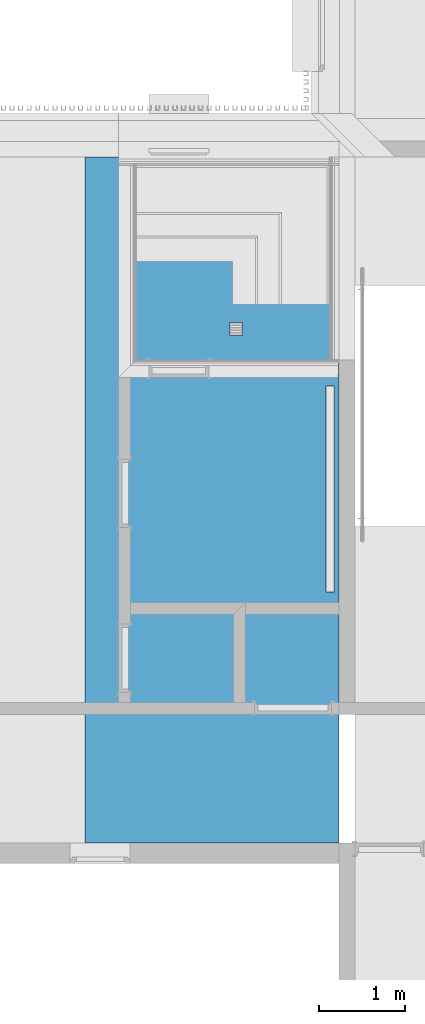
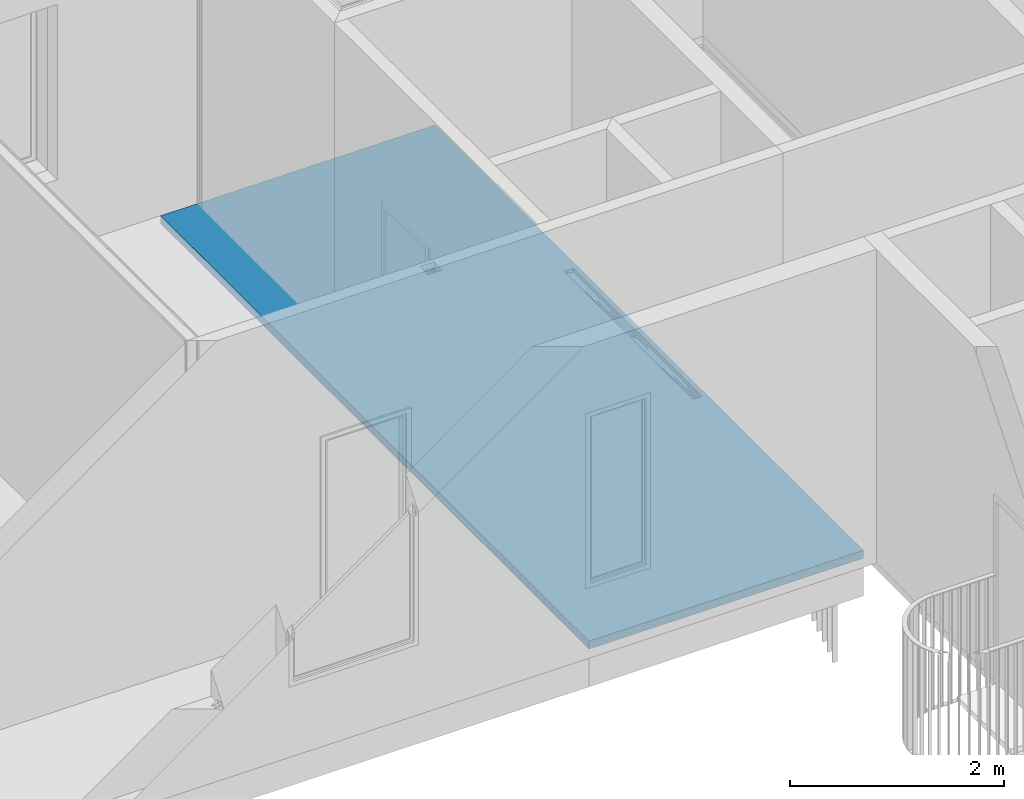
# One storey, part 68 of 100: 1 building element part, 1 element without a shape of its own.
"""IFC2X3 building model written with IfcOpenShell, lengths in millimetres."""

from ifc_helpers import new_model, entity, si_unit, converted_unit, derived_unit, money_unit, direction, frame, origin_with_axes, place, context, subcontext, project, spatial, polyline, outline, extrude, boolean, faceted_brep, material, type_object, element, aggregate, save


model = new_model("IFC2X3")

# Units and contexts
model_context = context("Model", 3, precision=0.01, world=origin_with_axes(), true_north=direction((0.0, 1.0)))
body_context = subcontext(model_context, "Body", "Model", "MODEL_VIEW")
ifc_project = project(units=[si_unit("LENGTHUNIT", "METRE", prefix="MILLI"), si_unit("AREAUNIT", "SQUARE_METRE"), si_unit("VOLUMEUNIT", "CUBIC_METRE"), converted_unit("PLANEANGLEUNIT", "DEGREE", entity("IfcPlaneAngleMeasure", 0.0174532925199), si_unit("PLANEANGLEUNIT", "RADIAN"), dimensions=[0, 0, 0, 0, 0, 0, 0]), si_unit("SOLIDANGLEUNIT", "STERADIAN"), money_unit("EUR"), converted_unit("TIMEUNIT", "Year", entity("IfcTimeMeasure", 31556926.0), si_unit("TIMEUNIT", "SECOND"), dimensions=[0, 0, 1, 0, 0, 0, 0]), si_unit("MASSUNIT", "GRAM", prefix="KILO"), si_unit("THERMODYNAMICTEMPERATUREUNIT", "DEGREE_CELSIUS"), si_unit("LUMINOUSINTENSITYUNIT", "LUMEN"), si_unit("ENERGYUNIT", "JOULE", prefix="MEGA"), derived_unit("THERMALCONDUCTANCEUNIT", [(si_unit("POWERUNIT", "WATT"), 1), (si_unit("LENGTHUNIT", "METRE"), -1), (si_unit("THERMODYNAMICTEMPERATUREUNIT", "KELVIN"), -1)]), derived_unit("SPECIFICHEATCAPACITYUNIT", [(si_unit("ENERGYUNIT", "JOULE"), 1), (si_unit("MASSUNIT", "GRAM", prefix="KILO"), -1), (si_unit("THERMODYNAMICTEMPERATUREUNIT", "KELVIN"), -1)]), derived_unit("MASSDENSITYUNIT", [(si_unit("MASSUNIT", "GRAM", prefix="KILO"), 1), (si_unit("VOLUMEUNIT", "CUBIC_METRE"), -1)])], contexts=[model_context])

# Site, building, storey
site_placement = place(None, origin_with_axes())
site = spatial("IfcSite", under=ifc_project, at=site_placement, Name="Politse- ja Piirivalveameti ning Päästeameti ühishoone", CompositionType="ELEMENT")
building_placement = place(site_placement, origin_with_axes())
building = spatial("IfcBuilding", under=site, at=building_placement, Name="Politse- ja Piirivalveameti ning Päästeameti ühishoone", CompositionType="ELEMENT")
storey_placement = place(building_placement, frame((0.0, 0.0, 3800.0), z_axis=(0.0, 0.0, 1.0), x_axis=(1.0, 0.0, 0.0)))
storey = spatial("IfcBuildingStorey", under=building, at=storey_placement, Name="Teine korrus", CompositionType="ELEMENT", Elevation=3800.0)

# Slab, building element part
slab_type = type_object("IfcSlabType", Name="VL-05_Vahelagi   400 paneel 520", PredefinedType="NOTDEFINED")
slab_placement = place(storey_placement, frame((57010.0279565, 20999.9410462, 0.0), z_axis=(0.0, 0.0, 1.0), x_axis=(1.0, 0.0, 0.0)))
slab = element("IfcSlab", 1, at=slab_placement, inside=storey, type_object=slab_type, Name="VL-05", PredefinedType="NOTDEFINED")
ifc_material = material(Name="VKR-01_Betoon")
building_element_part_placement = place(slab_placement, origin_with_axes())
building_element_part = element("IfcBuildingElementPart", 2, at=building_element_part_placement, material=ifc_material, Name="VKR-01_Betoon", context=body_context, shape_type="CSG", body=[
    boolean("DIFFERENCE", boolean("DIFFERENCE", boolean("DIFFERENCE", extrude(outline(polyline([(0.0, 0.0), (0.00405077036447, -7999.9211851), (2960.52395533, -7999.9211851), (2960.52395533, -4.69243666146e-05), (0.0, 0.0)])), frame((0.0, 0.0, -90.0), z_axis=(0.0, 0.0, 1.0), x_axis=(1.0, 0.0, 0.0)), (0.0, 0.0, 1.0), 90.0), faceted_brep([(1687.3840015, -2080.03274076, -90.0), (1837.3840015, -2080.03274076, -90.0), (1837.3840015, -1930.03274076, -90.0), (1687.3840015, -1930.03274076, -90.0), (1806.8840015, -1960.53274076, -90.0), (1806.8840015, -1935.03274076, -90.0), (1832.3840015, -1935.03274076, -90.0), (1832.3840015, -1960.53274076, -90.0), (1806.8840015, -1989.53274076, -90.0), (1806.8840015, -1962.53274076, -90.0), (1832.3840015, -1962.53274076, -90.0), (1832.3840015, -1989.53274076, -90.0), (1806.8840015, -2018.53274076, -90.0), (1806.8840015, -1991.53274076, -90.0), (1832.3840015, -1991.53274076, -90.0), (1832.3840015, -2018.53274076, -90.0), (1806.8840015, -2047.53274076, -90.0), (1806.8840015, -2020.53274076, -90.0), (1832.3840015, -2020.53274076, -90.0), (1832.3840015, -2047.53274076, -90.0), (1777.8840015, -1960.53274076, -90.0), (1777.8840015, -1935.03274076, -90.0), (1804.8840015, -1935.03274076, -90.0), (1804.8840015, -1960.53274076, -90.0), (1777.8840015, -1989.53274076, -90.0), (1777.8840015, -1962.53274076, -90.0), (1804.8840015, -1962.53274076, -90.0), (1804.8840015, -1989.53274076, -90.0), (1777.8840015, -2018.53274076, -90.0), (1777.8840015, -1991.53274076, -90.0), (1804.8840015, -1991.53274076, -90.0), (1804.8840015, -2018.53274076, -90.0), (1777.8840015, -2047.53274076, -90.0), (1777.8840015, -2020.53274076, -90.0), (1804.8840015, -2020.53274076, -90.0), (1804.8840015, -2047.53274076, -90.0), (1748.8840015, -1960.53274076, -90.0), (1748.8840012, -1935.03274076, -90.0), (1775.8840015, -1935.03274076, -90.0), (1775.8840015, -1960.53274076, -90.0), (1748.8840015, -1989.53274076, -90.0), (1748.8840015, -1962.53274076, -90.0), (1775.8840015, -1962.53274076, -90.0), (1775.8840015, -1989.53274076, -90.0), (1748.8840015, -2018.53274076, -90.0), (1748.8840015, -1991.53274076, -90.0), (1775.8840015, -1991.53274076, -90.0), (1775.8840015, -2018.53274076, -90.0), (1748.8840015, -2047.53274076, -90.0), (1748.8840015, -2020.53274076, -90.0), (1775.8840015, -2020.53274076, -90.0), (1775.8840015, -2047.53274076, -90.0), (1719.8840015, -1960.53274076, -90.0), (1719.8840012, -1935.03274076, -90.0), (1746.8840015, -1935.03274076, -90.0), (1746.8840015, -1960.53274076, -90.0), (1719.8840015, -1989.53274076, -90.0), (1719.8840015, -1962.53274076, -90.0), (1746.8840015, -1962.53274076, -90.0), (1746.8840015, -1989.53274076, -90.0), (1719.8840015, -2018.53274076, -90.0), (1719.8840015, -1991.53274076, -90.0), (1746.8840015, -1991.53274076, -90.0), (1746.8840015, -2018.53274076, -90.0), (1719.8840015, -2047.53274076, -90.0), (1719.8840015, -2020.53274076, -90.0), (1746.8840015, -2020.53274076, -90.0), (1746.8840015, -2047.53274076, -90.0), (1692.3840015, -1960.53274076, -90.0), (1692.3840015, -1935.03274076, -90.0), (1717.8840015, -1935.03274076, -90.0), (1717.8840015, -1960.53274076, -90.0), (1692.3840015, -1989.53274076, -90.0), (1692.3840015, -1962.53274076, -90.0), (1717.8840015, -1962.53274076, -90.0), (1717.8840015, -1989.53274076, -90.0), (1692.3840015, -2018.53274076, -90.0), (1692.3840015, -1991.53274076, -90.0), (1717.8840015, -1991.53274076, -90.0), (1717.8840015, -2018.53274076, -90.0), (1692.3840015, -2047.53274076, -90.0), (1692.3840015, -2020.53274076, -90.0), (1717.8840015, -2020.53274076, -90.0), (1717.8840015, -2047.53274076, -90.0), (1692.3840015, -2075.03274076, -90.0), (1692.3840015, -2049.53274076, -90.0), (1717.8840015, -2049.53274076, -90.0), (1717.8840015, -2075.03274076, -90.0), (1719.8840015, -2075.03274076, -90.0), (1719.8840015, -2049.53274076, -90.0), (1746.8840015, -2049.53274076, -90.0), (1746.8840015, -2075.03274076, -90.0), (1748.8840015, -2075.03274076, -90.0), (1748.8840015, -2049.53274076, -90.0), (1775.8840015, -2049.53274076, -90.0), (1775.8840015, -2075.03274076, -90.0), (1777.8840015, -2075.03274076, -90.0), (1777.8840015, -2049.53274076, -90.0), (1804.8840015, -2049.53274076, -90.0), (1804.8840015, -2075.03274076, -90.0), (1806.8840015, -2075.03274076, -90.0), (1806.8840015, -2049.53274076, -90.0), (1832.3840015, -2049.53274076, -90.0), (1832.3840015, -2075.03274076, -90.0), (1687.3840015, -2080.03274076, -100.0), (1837.3840015, -2080.03274076, -100.0), (1837.3840015, -1930.03274076, -100.0), (1687.3840015, -1930.03274076, -100.0), (1806.8840015, -1960.53274076, -100.0), (1806.8840015, -1935.03274076, -100.0), (1832.3840015, -1935.03274076, -100.0), (1832.3840015, -1960.53274076, -100.0), (1806.8840015, -1989.53274076, -100.0), (1806.8840015, -1962.53274076, -100.0), (1832.3840015, -1962.53274076, -100.0), (1832.3840015, -1989.53274076, -100.0), (1806.8840015, -2018.53274076, -100.0), (1806.8840015, -1991.53274076, -100.0), (1832.3840015, -1991.53274076, -100.0), (1832.3840015, -2018.53274076, -100.0), (1806.8840015, -2047.53274076, -100.0), (1806.8840015, -2020.53274076, -100.0), (1832.3840015, -2020.53274076, -100.0), (1832.3840015, -2047.53274076, -100.0), (1777.8840015, -1960.53274076, -100.0), (1777.8840015, -1935.03274076, -100.0), (1804.8840015, -1935.03274076, -100.0), (1804.8840015, -1960.53274076, -100.0), (1777.8840015, -1989.53274076, -100.0), (1777.8840015, -1962.53274076, -100.0), (1804.8840015, -1962.53274076, -100.0), (1804.8840015, -1989.53274076, -100.0), (1777.8840015, -2018.53274076, -100.0), (1777.8840015, -1991.53274076, -100.0), (1804.8840015, -1991.53274076, -100.0), (1804.8840015, -2018.53274076, -100.0), (1777.8840015, -2047.53274076, -100.0), (1777.8840015, -2020.53274076, -100.0), (1804.8840015, -2020.53274076, -100.0), (1804.8840015, -2047.53274076, -100.0), (1748.8840015, -1960.53274076, -100.0), (1748.8840012, -1935.03274076, -100.0), (1775.8840015, -1935.03274076, -100.0), (1775.8840015, -1960.53274076, -100.0), (1748.8840015, -1989.53274076, -100.0), (1748.8840015, -1962.53274076, -100.0), (1775.8840015, -1962.53274076, -100.0), (1775.8840015, -1989.53274076, -100.0), (1748.8840015, -2018.53274076, -100.0), (1748.8840015, -1991.53274076, -100.0), (1775.8840015, -1991.53274076, -100.0), (1775.8840015, -2018.53274076, -100.0), (1748.8840015, -2047.53274076, -100.0), (1748.8840015, -2020.53274076, -100.0), (1775.8840015, -2020.53274076, -100.0), (1775.8840015, -2047.53274076, -100.0), (1719.8840015, -1960.53274076, -100.0), (1719.8840012, -1935.03274076, -100.0), (1746.8840015, -1935.03274076, -100.0), (1746.8840015, -1960.53274076, -100.0), (1719.8840015, -1989.53274076, -100.0), (1719.8840015, -1962.53274076, -100.0), (1746.8840015, -1962.53274076, -100.0), (1746.8840015, -1989.53274076, -100.0), (1719.8840015, -2018.53274076, -100.0), (1719.8840015, -1991.53274076, -100.0), (1746.8840015, -1991.53274076, -100.0), (1746.8840015, -2018.53274076, -100.0), (1719.8840015, -2047.53274076, -100.0), (1719.8840015, -2020.53274076, -100.0), (1746.8840015, -2020.53274076, -100.0), (1746.8840015, -2047.53274076, -100.0), (1692.3840015, -1960.53274076, -100.0), (1692.3840015, -1935.03274076, -100.0), (1717.8840015, -1935.03274076, -100.0), (1717.8840015, -1960.53274076, -100.0), (1692.3840015, -1989.53274076, -100.0), (1692.3840015, -1962.53274076, -100.0), (1717.8840015, -1962.53274076, -100.0), (1717.8840015, -1989.53274076, -100.0), (1692.3840015, -2018.53274076, -100.0), (1692.3840015, -1991.53274076, -100.0), (1717.8840015, -1991.53274076, -100.0), (1717.8840015, -2018.53274076, -100.0), (1692.3840015, -2047.53274076, -100.0), (1692.3840015, -2020.53274076, -100.0), (1717.8840015, -2020.53274076, -100.0), (1717.8840015, -2047.53274076, -100.0), (1692.3840015, -2075.03274076, -100.0), (1692.3840015, -2049.53274076, -100.0), (1717.8840015, -2049.53274076, -100.0), (1717.8840015, -2075.03274076, -100.0), (1719.8840015, -2075.03274076, -100.0), (1719.8840015, -2049.53274076, -100.0), (1746.8840015, -2049.53274076, -100.0), (1746.8840015, -2075.03274076, -100.0), (1748.8840015, -2075.03274076, -100.0), (1748.8840015, -2049.53274076, -100.0), (1775.8840015, -2049.53274076, -100.0), (1775.8840015, -2075.03274076, -100.0), (1777.8840015, -2075.03274076, -100.0), (1777.8840015, -2049.53274076, -100.0), (1804.8840015, -2049.53274076, -100.0), (1804.8840015, -2075.03274076, -100.0), (1806.8840015, -2075.03274076, -100.0), (1806.8840015, -2049.53274076, -100.0), (1832.3840015, -2049.53274076, -100.0), (1832.3840015, -2075.03274076, -100.0)], [[[0, 1, 2, 3], [4, 5, 6, 7], [8, 9, 10, 11], [12, 13, 14, 15], [16, 17, 18, 19], [20, 21, 22, 23], [24, 25, 26, 27], [28, 29, 30, 31], [32, 33, 34, 35], [36, 37, 38, 39], [40, 41, 42, 43], [44, 45, 46, 47], [48, 49, 50, 51], [52, 53, 54, 55], [56, 57, 58, 59], [60, 61, 62, 63], [64, 65, 66, 67], [68, 69, 70, 71], [72, 73, 74, 75], [76, 77, 78, 79], [80, 81, 82, 83], [84, 85, 86, 87], [88, 89, 90, 91], [92, 93, 94, 95], [96, 97, 98, 99], [100, 101, 102, 103]], [[1, 0, 104, 105]], [[2, 1, 105, 106]], [[3, 2, 106, 107]], [[0, 3, 107, 104]], [[5, 4, 108, 109]], [[6, 5, 109, 110]], [[7, 6, 110, 111]], [[4, 7, 111, 108]], [[9, 8, 112, 113]], [[10, 9, 113, 114]], [[11, 10, 114, 115]], [[8, 11, 115, 112]], [[13, 12, 116, 117]], [[14, 13, 117, 118]], [[15, 14, 118, 119]], [[12, 15, 119, 116]], [[17, 16, 120, 121]], [[18, 17, 121, 122]], [[19, 18, 122, 123]], [[16, 19, 123, 120]], [[21, 20, 124, 125]], [[22, 21, 125, 126]], [[23, 22, 126, 127]], [[20, 23, 127, 124]], [[25, 24, 128, 129]], [[26, 25, 129, 130]], [[27, 26, 130, 131]], [[24, 27, 131, 128]], [[29, 28, 132, 133]], [[30, 29, 133, 134]], [[31, 30, 134, 135]], [[28, 31, 135, 132]], [[33, 32, 136, 137]], [[34, 33, 137, 138]], [[35, 34, 138, 139]], [[32, 35, 139, 136]], [[37, 36, 140, 141]], [[38, 37, 141, 142]], [[39, 38, 142, 143]], [[36, 39, 143, 140]], [[41, 40, 144, 145]], [[42, 41, 145, 146]], [[43, 42, 146, 147]], [[40, 43, 147, 144]], [[45, 44, 148, 149]], [[46, 45, 149, 150]], [[47, 46, 150, 151]], [[44, 47, 151, 148]], [[49, 48, 152, 153]], [[50, 49, 153, 154]], [[51, 50, 154, 155]], [[48, 51, 155, 152]], [[53, 52, 156, 157]], [[54, 53, 157, 158]], [[55, 54, 158, 159]], [[52, 55, 159, 156]], [[57, 56, 160, 161]], [[58, 57, 161, 162]], [[59, 58, 162, 163]], [[56, 59, 163, 160]], [[61, 60, 164, 165]], [[62, 61, 165, 166]], [[63, 62, 166, 167]], [[60, 63, 167, 164]], [[65, 64, 168, 169]], [[66, 65, 169, 170]], [[67, 66, 170, 171]], [[64, 67, 171, 168]], [[69, 68, 172, 173]], [[70, 69, 173, 174]], [[71, 70, 174, 175]], [[68, 71, 175, 172]], [[73, 72, 176, 177]], [[74, 73, 177, 178]], [[75, 74, 178, 179]], [[72, 75, 179, 176]], [[77, 76, 180, 181]], [[78, 77, 181, 182]], [[79, 78, 182, 183]], [[76, 79, 183, 180]], [[81, 80, 184, 185]], [[82, 81, 185, 186]], [[83, 82, 186, 187]], [[80, 83, 187, 184]], [[85, 84, 188, 189]], [[86, 85, 189, 190]], [[87, 86, 190, 191]], [[84, 87, 191, 188]], [[89, 88, 192, 193]], [[90, 89, 193, 194]], [[91, 90, 194, 195]], [[88, 91, 195, 192]], [[93, 92, 196, 197]], [[94, 93, 197, 198]], [[95, 94, 198, 199]], [[92, 95, 199, 196]], [[97, 96, 200, 201]], [[98, 97, 201, 202]], [[99, 98, 202, 203]], [[96, 99, 203, 200]], [[101, 100, 204, 205]], [[102, 101, 205, 206]], [[103, 102, 206, 207]], [[100, 103, 207, 204]], [[107, 173, 172, 177, 176, 181, 180, 185, 184, 189, 188, 191, 192, 195, 196, 199, 200, 203, 204, 207, 206, 123, 122, 119, 118, 115, 114, 111, 110, 106, 105, 104]], [[173, 107, 106, 110, 109, 108, 113, 112, 117, 116, 121, 120, 205, 204, 203, 202, 139, 138, 135, 134, 131, 130, 127, 126, 125, 124, 129, 128, 133, 132, 137, 136, 201, 200, 199, 198, 155, 154, 151, 150, 147, 146, 143, 142, 141, 140, 145, 144, 149, 148, 153, 152, 197, 196, 195, 194, 171, 170, 167, 166, 163, 162, 159, 158, 157, 156, 161, 160, 165, 164, 169, 168, 193, 192, 191, 190, 187, 186, 183, 182, 179, 178, 175, 174]], [[114, 113, 108, 111]], [[117, 112, 115, 118]], [[122, 121, 116, 119]], [[206, 205, 120, 123]], [[130, 129, 124, 127]], [[133, 128, 131, 134]], [[138, 137, 132, 135]], [[201, 136, 139, 202]], [[145, 140, 143, 146]], [[150, 149, 144, 147]], [[154, 153, 148, 151]], [[197, 152, 155, 198]], [[159, 162, 161, 156]], [[166, 165, 160, 163]], [[170, 169, 164, 167]], [[171, 194, 193, 168]], [[175, 178, 177, 172]], [[179, 182, 181, 176]], [[183, 186, 185, 180]], [[187, 190, 189, 184]]])), faceted_brep([(1687.3840015, -2080.03274076, -90.0), (1687.3840015, -1930.03274076, -90.0), (1837.3840015, -1930.03274076, -90.0), (1837.3840015, -2080.03274076, -90.0), (1806.8840015, -1960.53274076, -90.0), (1832.3840015, -1960.53274076, -90.0), (1832.3840015, -1935.03274076, -90.0), (1806.8840015, -1935.03274076, -90.0), (1806.8840015, -1989.53274076, -90.0), (1832.3840015, -1989.53274076, -90.0), (1832.3840015, -1962.53274076, -90.0), (1806.8840015, -1962.53274076, -90.0), (1806.8840015, -2018.53274076, -90.0), (1832.3840015, -2018.53274076, -90.0), (1832.3840015, -1991.53274076, -90.0), (1806.8840015, -1991.53274076, -90.0), (1806.8840015, -2047.53274076, -90.0), (1832.3840015, -2047.53274076, -90.0), (1832.3840015, -2020.53274076, -90.0), (1806.8840015, -2020.53274076, -90.0), (1777.8840015, -1960.53274076, -90.0), (1804.8840015, -1960.53274076, -90.0), (1804.8840015, -1935.03274076, -90.0), (1777.8840015, -1935.03274076, -90.0), (1777.8840015, -1989.53274076, -90.0), (1804.8840015, -1989.53274076, -90.0), (1804.8840015, -1962.53274076, -90.0), (1777.8840015, -1962.53274076, -90.0), (1777.8840015, -2018.53274076, -90.0), (1804.8840015, -2018.53274076, -90.0), (1804.8840015, -1991.53274076, -90.0), (1777.8840015, -1991.53274076, -90.0), (1777.8840015, -2047.53274076, -90.0), (1804.8840015, -2047.53274076, -90.0), (1804.8840015, -2020.53274076, -90.0), (1777.8840015, -2020.53274076, -90.0), (1748.8840015, -1960.53274076, -90.0), (1775.8840015, -1960.53274076, -90.0), (1775.8840015, -1935.03274076, -90.0), (1748.8840012, -1935.03274076, -90.0), (1748.8840015, -1989.53274076, -90.0), (1775.8840015, -1989.53274076, -90.0), (1775.8840015, -1962.53274076, -90.0), (1748.8840015, -1962.53274076, -90.0), (1748.8840015, -2018.53274076, -90.0), (1775.8840015, -2018.53274076, -90.0), (1775.8840015, -1991.53274076, -90.0), (1748.8840015, -1991.53274076, -90.0), (1748.8840015, -2047.53274076, -90.0), (1775.8840015, -2047.53274076, -90.0), (1775.8840015, -2020.53274076, -90.0), (1748.8840015, -2020.53274076, -90.0), (1719.8840015, -1960.53274076, -90.0), (1746.8840015, -1960.53274076, -90.0), (1746.8840015, -1935.03274076, -90.0), (1719.8840012, -1935.03274076, -90.0), (1719.8840015, -1989.53274076, -90.0), (1746.8840015, -1989.53274076, -90.0), (1746.8840015, -1962.53274076, -90.0), (1719.8840015, -1962.53274076, -90.0), (1719.8840015, -2018.53274076, -90.0), (1746.8840015, -2018.53274076, -90.0), (1746.8840015, -1991.53274076, -90.0), (1719.8840015, -1991.53274076, -90.0), (1719.8840015, -2047.53274076, -90.0), (1746.8840015, -2047.53274076, -90.0), (1746.8840015, -2020.53274076, -90.0), (1719.8840015, -2020.53274076, -90.0), (1692.3840015, -1960.53274076, -90.0), (1717.8840015, -1960.53274076, -90.0), (1717.8840015, -1935.03274076, -90.0), (1692.3840015, -1935.03274076, -90.0), (1692.3840015, -1989.53274076, -90.0), (1717.8840015, -1989.53274076, -90.0), (1717.8840015, -1962.53274076, -90.0), (1692.3840015, -1962.53274076, -90.0), (1692.3840015, -2018.53274076, -90.0), (1717.8840015, -2018.53274076, -90.0), (1717.8840015, -1991.53274076, -90.0), (1692.3840015, -1991.53274076, -90.0), (1692.3840015, -2047.53274076, -90.0), (1717.8840015, -2047.53274076, -90.0), (1717.8840015, -2020.53274076, -90.0), (1692.3840015, -2020.53274076, -90.0), (1692.3840015, -2075.03274076, -90.0), (1717.8840015, -2075.03274076, -90.0), (1717.8840015, -2049.53274076, -90.0), (1692.3840015, -2049.53274076, -90.0), (1719.8840015, -2075.03274076, -90.0), (1746.8840015, -2075.03274076, -90.0), (1746.8840015, -2049.53274076, -90.0), (1719.8840015, -2049.53274076, -90.0), (1748.8840015, -2075.03274076, -90.0), (1775.8840015, -2075.03274076, -90.0), (1775.8840015, -2049.53274076, -90.0), (1748.8840015, -2049.53274076, -90.0), (1777.8840015, -2075.03274076, -90.0), (1804.8840015, -2075.03274076, -90.0), (1804.8840015, -2049.53274076, -90.0), (1777.8840015, -2049.53274076, -90.0), (1806.8840015, -2075.03274076, -90.0), (1832.3840015, -2075.03274076, -90.0), (1832.3840015, -2049.53274076, -90.0), (1806.8840015, -2049.53274076, -90.0), (1687.3840015, -2080.03274076, 0.0), (1687.3840015, -1930.03274076, 0.0), (1837.3840015, -1930.03274076, 0.0), (1837.3840015, -2080.03274076, 0.0), (1806.8840015, -1960.53274076, -56.35), (1832.3840015, -1960.53274076, -56.35), (1832.3840015, -1935.03274076, -56.35), (1806.8840015, -1935.03274076, -56.35), (1806.8840015, -1989.53274076, -56.35), (1832.3840015, -1989.53274076, -56.35), (1832.3840015, -1962.53274076, -56.35), (1806.8840015, -1962.53274076, -56.35), (1806.8840015, -2018.53274076, -56.35), (1832.3840015, -2018.53274076, -56.35), (1832.3840015, -1991.53274076, -56.35), (1806.8840015, -1991.53274076, -56.35), (1806.8840015, -2047.53274076, -56.35), (1832.3840015, -2047.53274076, -56.35), (1832.3840015, -2020.53274076, -56.35), (1806.8840015, -2020.53274076, -56.35), (1777.8840015, -1960.53274076, -56.35), (1804.8840015, -1960.53274076, -56.35), (1804.8840015, -1935.03274076, -56.35), (1777.8840015, -1935.03274076, -56.35), (1777.8840015, -1989.53274076, -56.35), (1804.8840015, -1989.53274076, -56.35), (1804.8840015, -1962.53274076, -56.35), (1777.8840015, -1962.53274076, -56.35), (1777.8840015, -2018.53274076, -56.35), (1804.8840015, -2018.53274076, -56.35), (1804.8840015, -1991.53274076, -56.35), (1777.8840015, -1991.53274076, -56.35), (1777.8840015, -2047.53274076, -56.35), (1804.8840015, -2047.53274076, -56.35), (1804.8840015, -2020.53274076, -56.35), (1777.8840015, -2020.53274076, -56.35), (1748.8840015, -1960.53274076, -56.35), (1775.8840015, -1960.53274076, -56.35), (1775.8840015, -1935.03274076, -56.35), (1748.8840012, -1935.03274076, -56.35), (1748.8840015, -1989.53274076, -56.35), (1775.8840015, -1989.53274076, -56.35), (1775.8840015, -1962.53274076, -56.35), (1748.8840015, -1962.53274076, -56.35), (1748.8840015, -2018.53274076, -56.35), (1775.8840015, -2018.53274076, -56.35), (1775.8840015, -1991.53274076, -56.35), (1748.8840015, -1991.53274076, -56.35), (1748.8840015, -2047.53274076, -56.35), (1775.8840015, -2047.53274076, -56.35), (1775.8840015, -2020.53274076, -56.35), (1748.8840015, -2020.53274076, -56.35), (1719.8840015, -1960.53274076, -56.35), (1746.8840015, -1960.53274076, -56.35), (1746.8840015, -1935.03274076, -56.35), (1719.8840012, -1935.03274076, -56.35), (1719.8840015, -1989.53274076, -56.35), (1746.8840015, -1989.53274076, -56.35), (1746.8840015, -1962.53274076, -56.35), (1719.8840015, -1962.53274076, -56.35), (1719.8840015, -2018.53274076, -56.35), (1746.8840015, -2018.53274076, -56.35), (1746.8840015, -1991.53274076, -56.35), (1719.8840015, -1991.53274076, -56.35), (1719.8840015, -2047.53274076, -56.35), (1746.8840015, -2047.53274076, -56.35), (1746.8840015, -2020.53274076, -56.35), (1719.8840015, -2020.53274076, -56.35), (1692.3840015, -1960.53274076, -56.35), (1717.8840015, -1960.53274076, -56.35), (1717.8840015, -1935.03274076, -56.35), (1692.3840015, -1935.03274076, -56.35), (1692.3840015, -1989.53274076, -56.35), (1717.8840015, -1989.53274076, -56.35), (1717.8840015, -1962.53274076, -56.35), (1692.3840015, -1962.53274076, -56.35), (1692.3840015, -2018.53274076, -56.35), (1717.8840015, -2018.53274076, -56.35), (1717.8840015, -1991.53274076, -56.35), (1692.3840015, -1991.53274076, -56.35), (1692.3840015, -2047.53274076, -56.35), (1717.8840015, -2047.53274076, -56.35), (1717.8840015, -2020.53274076, -56.35), (1692.3840015, -2020.53274076, -56.35), (1692.3840015, -2075.03274076, -56.35), (1717.8840015, -2075.03274076, -56.35), (1717.8840015, -2049.53274076, -56.35), (1692.3840015, -2049.53274076, -56.35), (1719.8840015, -2075.03274076, -56.35), (1746.8840015, -2075.03274076, -56.35), (1746.8840015, -2049.53274076, -56.35), (1719.8840015, -2049.53274076, -56.35), (1748.8840015, -2075.03274076, -56.35), (1775.8840015, -2075.03274076, -56.35), (1775.8840015, -2049.53274076, -56.35), (1748.8840015, -2049.53274076, -56.35), (1777.8840015, -2075.03274076, -56.35), (1804.8840015, -2075.03274076, -56.35), (1804.8840015, -2049.53274076, -56.35), (1777.8840015, -2049.53274076, -56.35), (1806.8840015, -2075.03274076, -56.35), (1832.3840015, -2075.03274076, -56.35), (1832.3840015, -2049.53274076, -56.35), (1806.8840015, -2049.53274076, -56.35)], [[[0, 1, 2, 3], [4, 5, 6, 7], [8, 9, 10, 11], [12, 13, 14, 15], [16, 17, 18, 19], [20, 21, 22, 23], [24, 25, 26, 27], [28, 29, 30, 31], [32, 33, 34, 35], [36, 37, 38, 39], [40, 41, 42, 43], [44, 45, 46, 47], [48, 49, 50, 51], [52, 53, 54, 55], [56, 57, 58, 59], [60, 61, 62, 63], [64, 65, 66, 67], [68, 69, 70, 71], [72, 73, 74, 75], [76, 77, 78, 79], [80, 81, 82, 83], [84, 85, 86, 87], [88, 89, 90, 91], [92, 93, 94, 95], [96, 97, 98, 99], [100, 101, 102, 103]], [[104, 105, 1, 0]], [[105, 106, 2, 1]], [[106, 107, 3, 2]], [[107, 104, 0, 3]], [[5, 4, 108, 109]], [[6, 5, 109, 110]], [[7, 6, 110, 111]], [[4, 7, 111, 108]], [[9, 8, 112, 113]], [[10, 9, 113, 114]], [[11, 10, 114, 115]], [[8, 11, 115, 112]], [[13, 12, 116, 117]], [[14, 13, 117, 118]], [[15, 14, 118, 119]], [[12, 15, 119, 116]], [[17, 16, 120, 121]], [[18, 17, 121, 122]], [[19, 18, 122, 123]], [[16, 19, 123, 120]], [[21, 20, 124, 125]], [[22, 21, 125, 126]], [[23, 22, 126, 127]], [[20, 23, 127, 124]], [[25, 24, 128, 129]], [[26, 25, 129, 130]], [[27, 26, 130, 131]], [[24, 27, 131, 128]], [[29, 28, 132, 133]], [[30, 29, 133, 134]], [[31, 30, 134, 135]], [[28, 31, 135, 132]], [[33, 32, 136, 137]], [[34, 33, 137, 138]], [[35, 34, 138, 139]], [[32, 35, 139, 136]], [[37, 36, 140, 141]], [[38, 37, 141, 142]], [[39, 38, 142, 143]], [[36, 39, 143, 140]], [[41, 40, 144, 145]], [[42, 41, 145, 146]], [[43, 42, 146, 147]], [[40, 43, 147, 144]], [[45, 44, 148, 149]], [[46, 45, 149, 150]], [[47, 46, 150, 151]], [[44, 47, 151, 148]], [[49, 48, 152, 153]], [[50, 49, 153, 154]], [[51, 50, 154, 155]], [[48, 51, 155, 152]], [[53, 52, 156, 157]], [[54, 53, 157, 158]], [[55, 54, 158, 159]], [[52, 55, 159, 156]], [[57, 56, 160, 161]], [[58, 57, 161, 162]], [[59, 58, 162, 163]], [[56, 59, 163, 160]], [[61, 60, 164, 165]], [[62, 61, 165, 166]], [[63, 62, 166, 167]], [[60, 63, 167, 164]], [[65, 64, 168, 169]], [[66, 65, 169, 170]], [[67, 66, 170, 171]], [[64, 67, 171, 168]], [[69, 68, 172, 173]], [[70, 69, 173, 174]], [[71, 70, 174, 175]], [[68, 71, 175, 172]], [[73, 72, 176, 177]], [[74, 73, 177, 178]], [[75, 74, 178, 179]], [[72, 75, 179, 176]], [[77, 76, 180, 181]], [[78, 77, 181, 182]], [[79, 78, 182, 183]], [[76, 79, 183, 180]], [[81, 80, 184, 185]], [[82, 81, 185, 186]], [[83, 82, 186, 187]], [[80, 83, 187, 184]], [[85, 84, 188, 189]], [[86, 85, 189, 190]], [[87, 86, 190, 191]], [[84, 87, 191, 188]], [[89, 88, 192, 193]], [[90, 89, 193, 194]], [[91, 90, 194, 195]], [[88, 91, 195, 192]], [[93, 92, 196, 197]], [[94, 93, 197, 198]], [[95, 94, 198, 199]], [[92, 95, 199, 196]], [[97, 96, 200, 201]], [[98, 97, 201, 202]], [[99, 98, 202, 203]], [[96, 99, 203, 200]], [[101, 100, 204, 205]], [[102, 101, 205, 206]], [[103, 102, 206, 207]], [[100, 103, 207, 204]], [[104, 107, 106, 105]], [[110, 109, 108, 111]], [[113, 112, 115, 114]], [[117, 116, 119, 118]], [[122, 121, 120, 123]], [[125, 124, 127, 126]], [[128, 131, 130, 129]], [[133, 132, 135, 134]], [[138, 137, 136, 139]], [[141, 140, 143, 142]], [[145, 144, 147, 146]], [[148, 151, 150, 149]], [[152, 155, 154, 153]], [[157, 156, 159, 158]], [[162, 161, 160, 163]], [[165, 164, 167, 166]], [[168, 171, 170, 169]], [[173, 172, 175, 174]], [[176, 179, 178, 177]], [[180, 183, 182, 181]], [[184, 187, 186, 185]], [[189, 188, 191, 190]], [[192, 195, 194, 193]], [[198, 197, 196, 199]], [[202, 201, 200, 203]], [[206, 205, 204, 207]]])), faceted_brep([(2811.34537417, -5070.95374237, 0.0), (2911.34537417, -5070.95374237, 0.0), (2911.34537417, -2670.95374237, 0.0), (2811.34537417, -2670.95374237, 0.0), (2811.34537417, -5070.95374237, -50.0), (2911.34537417, -5070.95374237, -50.0), (2911.34537417, -2670.95374237, -50.0), (2811.34537417, -2670.95374237, -50.0), (2816.34537417, -2675.95374237, -50.0), (2816.34537417, -3869.95374237, -50.0), (2816.34537417, -3871.95374237, -50.0), (2816.34537417, -5065.95374237, -50.0), (2836.59537417, -5065.95374237, -50.0), (2838.59537447, -5065.95374237, -50.0), (2860.34537417, -5065.95374237, -50.0), (2862.34537417, -5065.95374237, -50.0), (2884.09537417, -5065.95374237, -50.0), (2886.09537417, -5065.95374237, -50.0), (2906.34537417, -5065.95374237, -50.0), (2906.34537417, -3871.95374237, -50.0), (2906.34537417, -3869.95374237, -50.0), (2906.34537417, -2675.95374237, -50.0), (2886.09537417, -2675.95374237, -50.0), (2886.09537417, -3869.95374237, -50.0), (2886.09537417, -3871.95374237, -50.0), (2884.09537417, -3871.95374237, -50.0), (2884.09537417, -3869.95374237, -50.0), (2884.09537417, -2675.95374237, -50.0), (2862.34537417, -2675.95374237, -50.0), (2862.34537417, -3869.95374237, -50.0), (2862.34537417, -3871.95374237, -50.0), (2860.34537417, -3871.95374237, -50.0), (2860.34537417, -3869.95374237, -50.0), (2860.34537417, -2675.95374237, -50.0), (2838.59537417, -2675.95374237, -50.0), (2838.59537417, -3869.95374237, -50.0), (2838.59537417, -3871.95374237, -50.0), (2836.59537417, -3871.95374237, -50.0), (2836.59537417, -3869.95374237, -50.0), (2836.59537417, -2675.95374237, -50.0), (2816.34537417, -2675.95374237, -31.35), (2816.34537417, -3869.95374237, -31.35), (2816.34537417, -3871.95374237, -31.35), (2816.34537417, -5065.95374237, -31.35), (2836.59537417, -5065.95374237, -31.35), (2838.59537447, -5065.95374237, -31.35), (2860.34537417, -5065.95374237, -31.35), (2862.34537417, -5065.95374237, -31.35), (2884.09537417, -5065.95374237, -31.35), (2886.09537417, -5065.95374237, -31.35), (2906.34537417, -5065.95374237, -31.35), (2906.34537417, -3871.95374237, -31.35), (2906.34537417, -3869.95374237, -31.35), (2906.34537417, -2675.95374237, -31.35), (2886.09537417, -2675.95374237, -31.35), (2886.09537417, -3869.95374237, -31.35), (2886.09537417, -3871.95374237, -31.35), (2884.09537417, -3871.95374237, -31.35), (2884.09537417, -3869.95374237, -31.35), (2884.09537417, -2675.95374237, -31.35), (2862.34537417, -2675.95374237, -31.35), (2862.34537417, -3869.95374237, -31.35), (2862.34537417, -3871.95374237, -31.35), (2860.34537417, -3871.95374237, -31.35), (2860.34537417, -3869.95374237, -31.35), (2860.34537417, -2675.95374237, -31.35), (2838.59537417, -2675.95374237, -31.35), (2838.59537417, -3869.95374237, -31.35), (2838.59537417, -3871.95374237, -31.35), (2836.59537417, -3871.95374237, -31.35), (2836.59537417, -3869.95374237, -31.35), (2836.59537417, -2675.95374237, -31.35)], [[[0, 1, 2, 3]], [[1, 0, 4, 5]], [[2, 1, 5, 6]], [[3, 2, 6, 7]], [[0, 3, 7, 4]], [[7, 8, 9, 10, 11, 12, 13, 14, 15, 16, 17, 18, 19, 20, 21, 6, 5, 4]], [[8, 7, 6, 21, 22, 23, 24, 17, 16, 25, 26, 27, 28, 29, 30, 15, 14, 31, 32, 33, 34, 35, 36, 13, 12, 37, 38, 39]], [[8, 40, 41, 9]], [[10, 9, 38, 37]], [[10, 42, 43, 11]], [[11, 43, 44, 12]], [[13, 45, 46, 14]], [[15, 47, 48, 16]], [[17, 49, 50, 18]], [[18, 50, 51, 19]], [[24, 23, 20, 19]], [[20, 52, 53, 21]], [[54, 22, 21, 53]], [[22, 54, 55, 23]], [[49, 17, 24, 56]], [[16, 48, 57, 25]], [[25, 30, 29, 26]], [[26, 58, 59, 27]], [[60, 28, 27, 59]], [[28, 60, 61, 29]], [[47, 15, 30, 62]], [[63, 31, 14, 46]], [[36, 35, 32, 31]], [[32, 64, 65, 33]], [[66, 34, 33, 65]], [[34, 66, 67, 35]], [[36, 68, 45, 13]], [[69, 37, 12, 44]], [[38, 70, 71, 39]], [[40, 8, 39, 71]], [[41, 40, 71, 70]], [[9, 41, 70, 38]], [[42, 10, 37, 69]], [[43, 42, 69, 44]], [[68, 63, 46, 45]], [[48, 47, 62, 57]], [[50, 49, 56, 51]], [[56, 24, 19, 51]], [[23, 55, 52, 20]], [[52, 55, 54, 53]], [[62, 30, 25, 57]], [[29, 61, 58, 26]], [[61, 60, 59, 58]], [[68, 36, 31, 63]], [[35, 67, 64, 32]], [[64, 67, 66, 65]]])),
])
aggregate(slab, [building_element_part])

save(model, "model.ifc")
